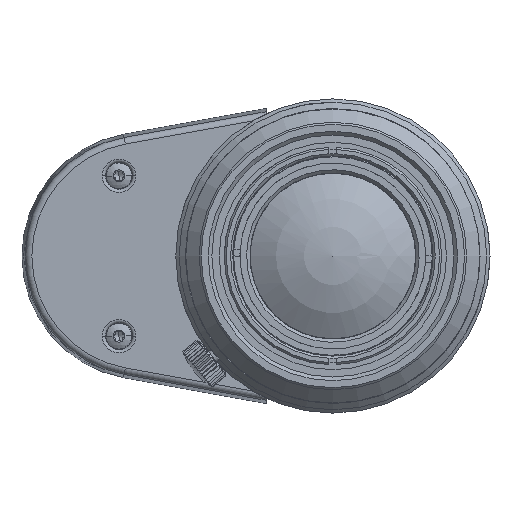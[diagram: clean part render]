
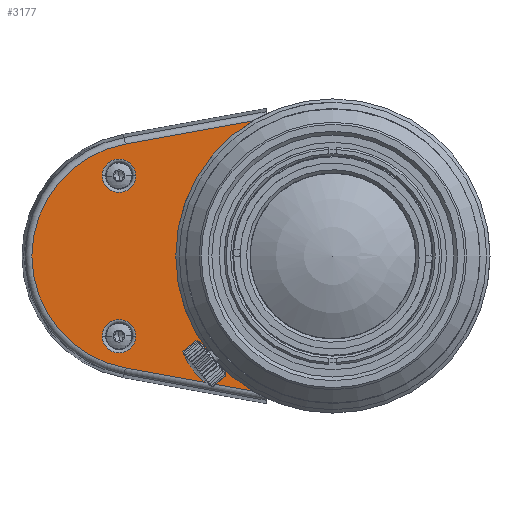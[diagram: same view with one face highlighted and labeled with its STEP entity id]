
A CAD part, left-side view. The second image highlights one B-rep face of the part: STEP entity #3177.
In plain terms, the highlighted planar face has unit normal (-1, 0, 0).
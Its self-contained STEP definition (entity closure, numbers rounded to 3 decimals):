
#1842=PLANE('',#24286);
#2164=FACE_BOUND('',#5975,.T.);
#2165=FACE_BOUND('',#5976,.T.);
#2166=FACE_BOUND('',#5977,.T.);
#3177=ADVANCED_FACE('',(#2164,#2165,#2166),#1842,.F.);
#5975=EDGE_LOOP('',(#12925,#12926));
#5976=EDGE_LOOP('',(#12927,#12928));
#5977=EDGE_LOOP('',(#12929,#12930,#12931,#12932,#12933));
#7861=LINE('',#36878,#9286);
#7862=LINE('',#36881,#9287);
#9286=VECTOR('',#28326,1.);
#9287=VECTOR('',#28329,1.);
#12925=ORIENTED_EDGE('',*,*,#20599,.T.);
#12926=ORIENTED_EDGE('',*,*,#20656,.T.);
#12927=ORIENTED_EDGE('',*,*,#20595,.T.);
#12928=ORIENTED_EDGE('',*,*,#20657,.T.);
#12929=ORIENTED_EDGE('',*,*,#20658,.T.);
#12930=ORIENTED_EDGE('',*,*,#20659,.T.);
#12931=ORIENTED_EDGE('',*,*,#20638,.F.);
#12932=ORIENTED_EDGE('',*,*,#20660,.F.);
#12933=ORIENTED_EDGE('',*,*,#20661,.T.);
#17558=VERTEX_POINT('',#36696);
#17559=VERTEX_POINT('',#36698);
#17562=VERTEX_POINT('',#36705);
#17563=VERTEX_POINT('',#36707);
#17593=VERTEX_POINT('',#36825);
#17594=VERTEX_POINT('',#36827);
#17609=VERTEX_POINT('',#36876);
#17610=VERTEX_POINT('',#36877);
#17611=VERTEX_POINT('',#36880);
#20595=EDGE_CURVE('',#17559,#17558,#22843,.T.);
#20599=EDGE_CURVE('',#17563,#17562,#22847,.T.);
#20638=EDGE_CURVE('',#17593,#17594,#22872,.T.);
#20656=EDGE_CURVE('',#17562,#17563,#22880,.T.);
#20657=EDGE_CURVE('',#17558,#17559,#22881,.T.);
#20658=EDGE_CURVE('',#17609,#17610,#22882,.T.);
#20659=EDGE_CURVE('',#17610,#17594,#7861,.T.);
#20660=EDGE_CURVE('',#17611,#17593,#22883,.T.);
#20661=EDGE_CURVE('',#17611,#17609,#7862,.T.);
#22843=CIRCLE('',#24228,2.5);
#22847=CIRCLE('',#24233,2.5);
#22872=CIRCLE('',#24269,23.5);
#22880=CIRCLE('',#24282,2.5);
#22881=CIRCLE('',#24283,2.5);
#22882=CIRCLE('',#24284,17.022);
#22883=CIRCLE('',#24285,23.5);
#24228=AXIS2_PLACEMENT_3D('',#36697,#28193,#28194);
#24233=AXIS2_PLACEMENT_3D('',#36706,#28203,#28204);
#24269=AXIS2_PLACEMENT_3D('',#36826,#28286,#28287);
#24282=AXIS2_PLACEMENT_3D('',#36873,#28320,#28321);
#24283=AXIS2_PLACEMENT_3D('',#36874,#28322,#28323);
#24284=AXIS2_PLACEMENT_3D('',#36875,#28324,#28325);
#24285=AXIS2_PLACEMENT_3D('',#36879,#28327,#28328);
#24286=AXIS2_PLACEMENT_3D('',#36882,#28330,#28331);
#28193=DIRECTION('',(1.,0.,0.));
#28194=DIRECTION('',(0.,-1.,0.));
#28203=DIRECTION('',(1.,0.,0.));
#28204=DIRECTION('',(0.,-1.,0.));
#28286=DIRECTION('',(-1.,0.,0.));
#28287=DIRECTION('',(0.,-1.,0.));
#28320=DIRECTION('',(1.,0.,0.));
#28321=DIRECTION('',(0.,-1.,0.));
#28322=DIRECTION('',(1.,0.,0.));
#28323=DIRECTION('',(0.,-1.,0.));
#28324=DIRECTION('',(-1.,0.,0.));
#28325=DIRECTION('',(0.,-1.,0.));
#28326=DIRECTION('',(0.,-0.984,-0.179));
#28327=DIRECTION('',(-1.,0.,0.));
#28328=DIRECTION('',(0.,-1.,0.));
#28329=DIRECTION('',(0.,0.984,-0.179));
#28330=DIRECTION('',(1.,0.,0.));
#28331=DIRECTION('',(0.,1.,0.));
#36696=CARTESIAN_POINT('',(-53.101,34.5,-12.));
#36697=CARTESIAN_POINT('',(-53.101,32.,-12.));
#36698=CARTESIAN_POINT('',(-53.101,29.5,-12.));
#36705=CARTESIAN_POINT('',(-53.101,34.5,12.));
#36706=CARTESIAN_POINT('',(-53.101,32.,12.));
#36707=CARTESIAN_POINT('',(-53.101,29.5,12.));
#36825=CARTESIAN_POINT('',(-53.101,23.5,0.));
#36826=CARTESIAN_POINT('',(-53.101,0.,0.));
#36827=CARTESIAN_POINT('',(-53.101,12.004,-20.203));
#36873=CARTESIAN_POINT('',(-53.101,32.,12.));
#36874=CARTESIAN_POINT('',(-53.101,32.,-12.));
#36875=CARTESIAN_POINT('',(-53.101,28.,0.));
#36876=CARTESIAN_POINT('',(-53.101,31.04,16.748));
#36877=CARTESIAN_POINT('',(-53.101,31.04,-16.748));
#36878=CARTESIAN_POINT('',(-53.101,31.04,-16.748));
#36879=CARTESIAN_POINT('',(-53.101,0.,0.));
#36880=CARTESIAN_POINT('',(-53.101,12.004,20.203));
#36881=CARTESIAN_POINT('',(-53.101,31.04,16.748));
#36882=CARTESIAN_POINT('',(-53.101,28.,0.));
